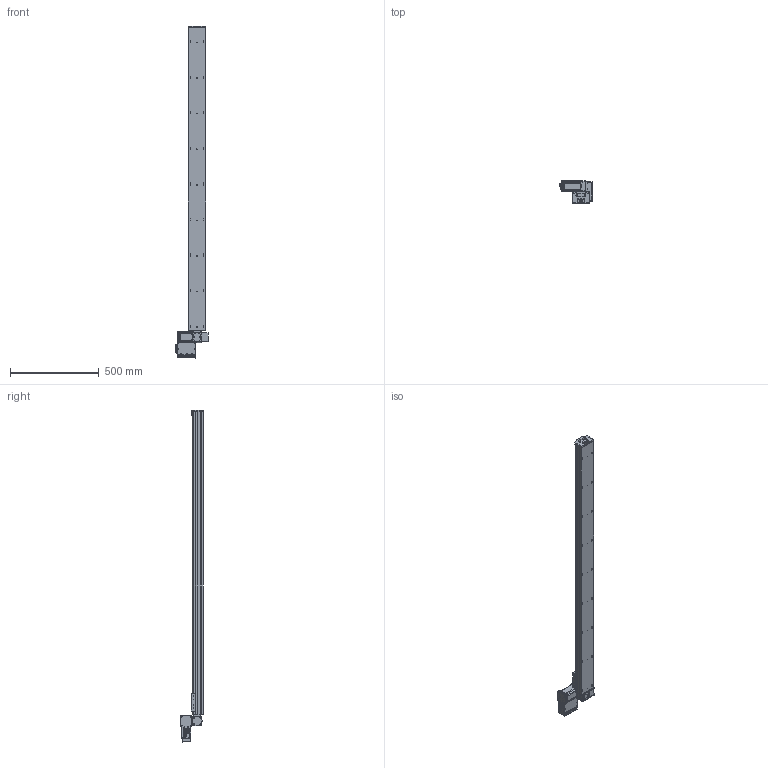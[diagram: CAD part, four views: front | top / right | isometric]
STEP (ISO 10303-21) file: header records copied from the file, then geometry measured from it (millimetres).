
FILE_DESCRIPTION (( 'STEP AP203' ), '1' );
FILE_NAME ('S10 TBN LT S1700.STEP', '2012-06-19T13:01:37', ( 'Conseil Régional Haute-Normandie' ), ( 'Conseil Régional Haute-Normandie' ), 'SwSTEP 2.0', 'SolidWorks 2010', '' );
FILE_SCHEMA (( 'CONFIG_CONTROL_DESIGN' ));
Products named in the file (29): Assem1_7; Moteur 60BLDC90A_3; Couvercle_3; T_X2_00F4_X0_le fond_3; Colonnette ronde_3; T_X2_00F4_X0_le Arri_X2_00E8_X0_re_5; Cvis M5 L30_Default; palette tbn; embout; Vis M5 L16-2_Default_1; vis M5 L5_Default; axe 1700; S10 TBN LT S1700; T_X2_00F4_X0_le contre le moteur_5; BU41 Carte Alimentation P05_3; Colonnette_3; BU45 Carte d''axe A11_5; Connecteur rond D10 3cts_5; Connecteur rond D12 4cts_5; Sub D 9cts 90_X2_00B_X0__3; Radiateur profil_X2_00E9_X0_ 100x25_3; T_X2_00F4_X0_le lat_X2_00E9_X0_rale_5; Vis TF 3 torkx_1_1; cache t皻e axe_Default; cache t皻e_Default; plaque de bout s10_Default; Plaque racord_Default; renvoi LH_Default; vis M5 L12_Default
Assembly tree (62 placements, depth 3):
  S10 TBN LT S1700
    plaque de bout s10_Default
    Plaque racord_Default
    renvoi LH_Default
    vis M5 L12_Default  x4
    Vis M5 L16-2_Default_1  x4
    vis M5 L5_Default  x4
    cache t皻e axe_Default
    Cvis M5 L30_Default  x2
    axe 1700
    cache t皻e_Default  x2
    embout
    palette tbn
    Assem1_7
      T_X2_00F4_X0_le fond_3
      Vis TF 3 torkx_1_1  x21
      Connecteur rond D10 3cts_5  x2
      BU41 Carte Alimentation P05_3
      Moteur 60BLDC90A_3
      Connecteur rond D12 4cts_5
      Radiateur profil_X2_00E9_X0_ 100x25_3
      Sub D 9cts 90_X2_00B_X0__3
      BU45 Carte d''axe A11_5
      T_X2_00F4_X0_le contre le moteur_5
      Colonnette_3  x2
      T_X2_00F4_X0_le Arri_X2_00E8_X0_re_5
      T_X2_00F4_X0_le lat_X2_00E9_X0_rale_5  x2
      Colonnette ronde_3
      Couvercle_3
Bounding box: 189.8 x 127 x 1866.5 mm (x, y, z)
Volume: 9677481.5 mm3; surface area: 1125181.1 mm2
Topology: 61 solids, 61 shells, 2334 faces, 5784 edges, 3727 vertices
Faces by surface type: plane 1105, cylinder 1004, cone 182, bspline 40, torus 3
Entity records: 48695 total; most frequent: CARTESIAN_POINT 8775, DIRECTION 7881, ORIENTED_EDGE 7148, EDGE_CURVE 3574, AXIS2_PLACEMENT_3D 2932, VERTEX_POINT 2331, VECTOR 2017, LINE 2017
